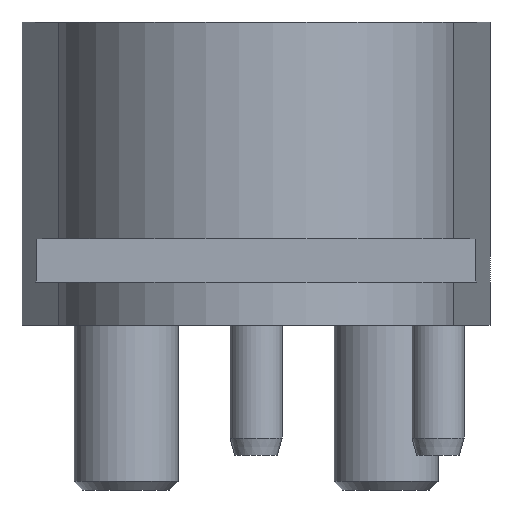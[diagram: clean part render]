
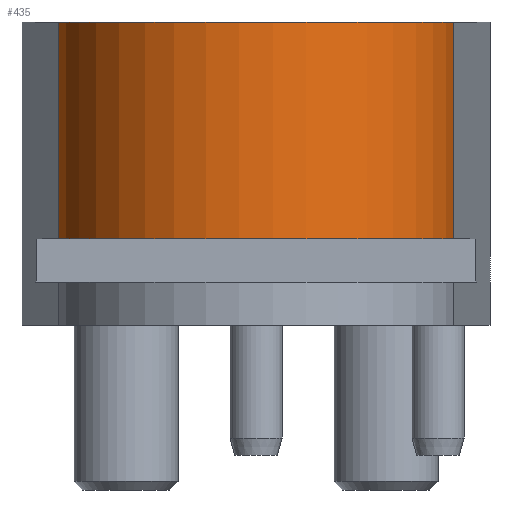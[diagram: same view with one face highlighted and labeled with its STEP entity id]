
A CAD part, left-side view. The second image highlights one B-rep face of the part: STEP entity #435.
In plain terms, the highlighted cylindrical face has radius 23 mm (diameter 46 mm), a partial arc.
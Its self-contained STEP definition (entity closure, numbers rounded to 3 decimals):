
#122=CYLINDRICAL_SURFACE('',#2674,23.);
#273=CIRCLE('',#2672,23.);
#274=CIRCLE('',#2673,23.);
#435=ADVANCED_FACE('',(#655),#122,.T.);
#655=FACE_OUTER_BOUND('',#795,.T.);
#795=EDGE_LOOP('',(#1093,#1094,#1095,#1096));
#1093=ORIENTED_EDGE('',*,*,#1950,.F.);
#1094=ORIENTED_EDGE('',*,*,#1951,.T.);
#1095=ORIENTED_EDGE('',*,*,#1952,.F.);
#1096=ORIENTED_EDGE('',*,*,#1953,.F.);
#1697=VERTEX_POINT('',#3889);
#1698=VERTEX_POINT('',#3890);
#1699=VERTEX_POINT('',#3892);
#1700=VERTEX_POINT('',#3894);
#1950=EDGE_CURVE('',#1697,#1698,#273,.T.);
#1951=EDGE_CURVE('',#1697,#1699,#2280,.T.);
#1952=EDGE_CURVE('',#1700,#1699,#274,.T.);
#1953=EDGE_CURVE('',#1698,#1700,#2281,.T.);
#2280=LINE('',#3891,#2478);
#2281=LINE('',#3895,#2479);
#2478=VECTOR('',#3092,1.);
#2479=VECTOR('',#3095,1.);
#2672=AXIS2_PLACEMENT_3D('',#3888,#3090,#3091);
#2673=AXIS2_PLACEMENT_3D('',#3893,#3093,#3094);
#2674=AXIS2_PLACEMENT_3D('',#3896,#3096,#3097);
#3090=DIRECTION('',(0.,0.,-1.));
#3091=DIRECTION('',(0.,1.,0.));
#3092=DIRECTION('',(0.,0.,1.));
#3093=DIRECTION('',(0.,0.,1.));
#3094=DIRECTION('',(0.,1.,0.));
#3095=DIRECTION('',(0.,0.,1.));
#3096=DIRECTION('',(0.,0.,1.));
#3097=DIRECTION('',(-1.,0.,0.));
#3888=CARTESIAN_POINT('',(0.,0.,10.));
#3889=CARTESIAN_POINT('',(-3.085,-22.792,10.));
#3890=CARTESIAN_POINT('',(-3.085,22.792,10.));
#3891=CARTESIAN_POINT('',(-3.085,-22.792,5.));
#3892=CARTESIAN_POINT('',(-3.085,-22.792,35.));
#3893=CARTESIAN_POINT('',(0.,0.,35.));
#3894=CARTESIAN_POINT('',(-3.085,22.792,35.));
#3895=CARTESIAN_POINT('',(-3.085,22.792,5.));
#3896=CARTESIAN_POINT('',(0.,0.,0.));
